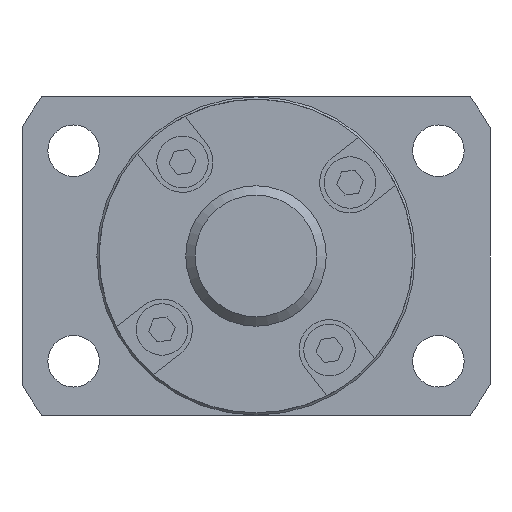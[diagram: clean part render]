
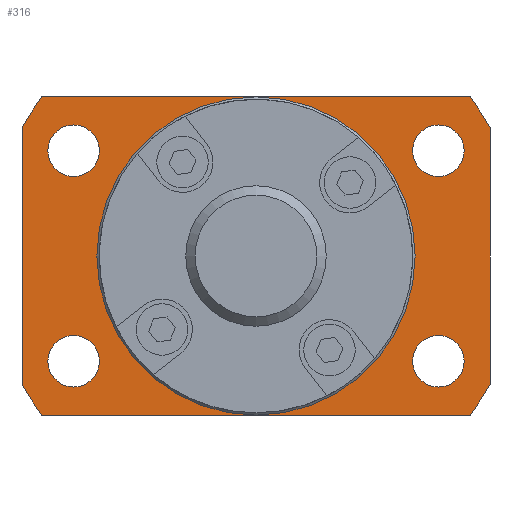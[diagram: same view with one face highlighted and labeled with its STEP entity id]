
A CAD part, left-side view. The second image highlights one B-rep face of the part: STEP entity #316.
In plain terms, the highlighted planar face has unit normal (-1, 0, 0).
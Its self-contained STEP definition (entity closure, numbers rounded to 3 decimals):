
#316 = ADVANCED_FACE( '', ( #682, #683, #684, #685, #686, #687 ), #688, .F. );
#682 = FACE_OUTER_BOUND( '', #1102, .T. );
#683 = FACE_BOUND( '', #1103, .T. );
#684 = FACE_BOUND( '', #1104, .T. );
#685 = FACE_BOUND( '', #1105, .T. );
#686 = FACE_BOUND( '', #1106, .T. );
#687 = FACE_BOUND( '', #1107, .T. );
#688 = PLANE( '', #1108 );
#1102 = EDGE_LOOP( '', ( #1796, #1797, #1798, #1799, #1800, #1801, #1802, #1803 ) );
#1103 = EDGE_LOOP( '', ( #1804 ) );
#1104 = EDGE_LOOP( '', ( #1805 ) );
#1105 = EDGE_LOOP( '', ( #1806 ) );
#1106 = EDGE_LOOP( '', ( #1807 ) );
#1107 = EDGE_LOOP( '', ( #1808 ) );
#1108 = AXIS2_PLACEMENT_3D( '', #1809, #1810, #1811 );
#1796 = ORIENTED_EDGE( '', *, *, #2392, .F. );
#1797 = ORIENTED_EDGE( '', *, *, #2254, .F. );
#1798 = ORIENTED_EDGE( '', *, *, #2341, .F. );
#1799 = ORIENTED_EDGE( '', *, *, #2291, .F. );
#1800 = ORIENTED_EDGE( '', *, *, #2411, .F. );
#1801 = ORIENTED_EDGE( '', *, *, #2422, .F. );
#1802 = ORIENTED_EDGE( '', *, *, #2296, .F. );
#1803 = ORIENTED_EDGE( '', *, *, #2423, .F. );
#1804 = ORIENTED_EDGE( '', *, *, #2385, .T. );
#1805 = ORIENTED_EDGE( '', *, *, #2424, .T. );
#1806 = ORIENTED_EDGE( '', *, *, #2425, .T. );
#1807 = ORIENTED_EDGE( '', *, *, #2350, .T. );
#1808 = ORIENTED_EDGE( '', *, *, #2347, .T. );
#1809 = CARTESIAN_POINT( '', ( 28.5, 16.75, 0. ) );
#1810 = DIRECTION( '', ( 1., 0., 0. ) );
#1811 = DIRECTION( '', ( 0., 0., -1. ) );
#2254 = EDGE_CURVE( '', #2651, #2652, #2653, .T. );
#2291 = EDGE_CURVE( '', #2716, #2717, #2718, .T. );
#2296 = EDGE_CURVE( '', #2724, #2725, #2726, .T. );
#2341 = EDGE_CURVE( '', #2717, #2651, #2796, .T. );
#2347 = EDGE_CURVE( '', #2804, #2804, #2805, .T. );
#2350 = EDGE_CURVE( '', #2809, #2809, #2810, .T. );
#2385 = EDGE_CURVE( '', #2855, #2855, #2856, .T. );
#2392 = EDGE_CURVE( '', #2652, #2865, #2866, .T. );
#2411 = EDGE_CURVE( '', #2890, #2716, #2891, .T. );
#2422 = EDGE_CURVE( '', #2725, #2890, #2906, .T. );
#2423 = EDGE_CURVE( '', #2865, #2724, #2907, .T. );
#2424 = EDGE_CURVE( '', #2908, #2908, #2909, .T. );
#2425 = EDGE_CURVE( '', #2910, #2910, #2911, .T. );
#2651 = VERTEX_POINT( '', #3184 );
#2652 = VERTEX_POINT( '', #3185 );
#2653 = LINE( '', #3186, #3187 );
#2716 = VERTEX_POINT( '', #3266 );
#2717 = VERTEX_POINT( '', #3267 );
#2718 = LINE( '', #3268, #3269 );
#2724 = VERTEX_POINT( '', #3278 );
#2725 = VERTEX_POINT( '', #3279 );
#2726 = CIRCLE( '', #3280, 28.5 );
#2796 = CIRCLE( '', #3375, 28.5 );
#2804 = VERTEX_POINT( '', #3383 );
#2805 = CIRCLE( '', #3384, 2.75 );
#2809 = VERTEX_POINT( '', #3388 );
#2810 = CIRCLE( '', #3389, 2.75 );
#2855 = VERTEX_POINT( '', #3448 );
#2856 = CIRCLE( '', #3449, 2.75 );
#2865 = VERTEX_POINT( '', #3460 );
#2866 = CIRCLE( '', #3461, 28.5 );
#2890 = VERTEX_POINT( '', #3526 );
#2891 = CIRCLE( '', #3527, 28.5 );
#2906 = LINE( '', #3548, #3549 );
#2907 = LINE( '', #3550, #3551 );
#2908 = VERTEX_POINT( '', #3552 );
#2909 = CIRCLE( '', #3553, 2.75 );
#2910 = VERTEX_POINT( '', #3554 );
#2911 = CIRCLE( '', #3555, 16.75 );
#3184 = CARTESIAN_POINT( '', ( 28.5, 25., -13.684 ) );
#3185 = CARTESIAN_POINT( '', ( 28.5, 25., 13.684 ) );
#3186 = CARTESIAN_POINT( '', ( 28.5, 25., -13.684 ) );
#3187 = VECTOR( '', #3790, 1000. );
#3266 = CARTESIAN_POINT( '', ( 28.5, -22.875, -17. ) );
#3267 = CARTESIAN_POINT( '', ( 28.5, 22.875, -17. ) );
#3268 = CARTESIAN_POINT( '', ( 28.5, -22.875, -17. ) );
#3269 = VECTOR( '', #3849, 1000. );
#3278 = CARTESIAN_POINT( '', ( 28.5, -22.875, 17. ) );
#3279 = CARTESIAN_POINT( '', ( 28.5, -25., 13.684 ) );
#3280 = AXIS2_PLACEMENT_3D( '', #3853, #3854, #3855 );
#3375 = AXIS2_PLACEMENT_3D( '', #3905, #3906, #3907 );
#3383 = CARTESIAN_POINT( '', ( 28.5, -19.486, -14. ) );
#3384 = AXIS2_PLACEMENT_3D( '', #3914, #3915, #3916 );
#3388 = CARTESIAN_POINT( '', ( 28.5, 19.486, -14. ) );
#3389 = AXIS2_PLACEMENT_3D( '', #3920, #3921, #3922 );
#3448 = CARTESIAN_POINT( '', ( 28.5, -19.486, 8.5 ) );
#3449 = AXIS2_PLACEMENT_3D( '', #3955, #3956, #3957 );
#3460 = CARTESIAN_POINT( '', ( 28.5, 22.875, 17. ) );
#3461 = AXIS2_PLACEMENT_3D( '', #3963, #3964, #3965 );
#3526 = CARTESIAN_POINT( '', ( 28.5, -25., -13.684 ) );
#3527 = AXIS2_PLACEMENT_3D( '', #3980, #3981, #3982 );
#3548 = CARTESIAN_POINT( '', ( 28.5, -25., 13.684 ) );
#3549 = VECTOR( '', #3992, 1000. );
#3550 = CARTESIAN_POINT( '', ( 28.5, 22.875, 17. ) );
#3551 = VECTOR( '', #3993, 1000. );
#3552 = CARTESIAN_POINT( '', ( 28.5, 19.486, 8.5 ) );
#3553 = AXIS2_PLACEMENT_3D( '', #3994, #3995, #3996 );
#3554 = CARTESIAN_POINT( '', ( 28.5, 0., -16.75 ) );
#3555 = AXIS2_PLACEMENT_3D( '', #3997, #3998, #3999 );
#3790 = DIRECTION( '', ( 0., 0., 1. ) );
#3849 = DIRECTION( '', ( 0., 1., 0. ) );
#3853 = CARTESIAN_POINT( '', ( 28.5, 0., 0. ) );
#3854 = DIRECTION( '', ( 1., 0., 0. ) );
#3855 = DIRECTION( '', ( 0., 0., -1. ) );
#3905 = CARTESIAN_POINT( '', ( 28.5, 0., 0. ) );
#3906 = DIRECTION( '', ( 1., 0., 0. ) );
#3907 = DIRECTION( '', ( 0., 0., -1. ) );
#3914 = CARTESIAN_POINT( '', ( 28.5, -19.486, -11.25 ) );
#3915 = DIRECTION( '', ( 1., 0., 0. ) );
#3916 = DIRECTION( '', ( 0., 0., -1. ) );
#3920 = CARTESIAN_POINT( '', ( 28.5, 19.486, -11.25 ) );
#3921 = DIRECTION( '', ( 1., 0., 0. ) );
#3922 = DIRECTION( '', ( 0., 0., -1. ) );
#3955 = CARTESIAN_POINT( '', ( 28.5, -19.486, 11.25 ) );
#3956 = DIRECTION( '', ( 1., 0., 0. ) );
#3957 = DIRECTION( '', ( 0., 0., -1. ) );
#3963 = CARTESIAN_POINT( '', ( 28.5, 0., 0. ) );
#3964 = DIRECTION( '', ( 1., 0., 0. ) );
#3965 = DIRECTION( '', ( 0., 0., -1. ) );
#3980 = CARTESIAN_POINT( '', ( 28.5, 0., 0. ) );
#3981 = DIRECTION( '', ( 1., 0., 0. ) );
#3982 = DIRECTION( '', ( 0., 0., -1. ) );
#3992 = DIRECTION( '', ( 0., 0., -1. ) );
#3993 = DIRECTION( '', ( 0., -1., 0. ) );
#3994 = CARTESIAN_POINT( '', ( 28.5, 19.486, 11.25 ) );
#3995 = DIRECTION( '', ( 1., 0., 0. ) );
#3996 = DIRECTION( '', ( 0., 0., -1. ) );
#3997 = CARTESIAN_POINT( '', ( 28.5, 0., 0. ) );
#3998 = DIRECTION( '', ( 1., 0., 0. ) );
#3999 = DIRECTION( '', ( 0., 0., -1. ) );
